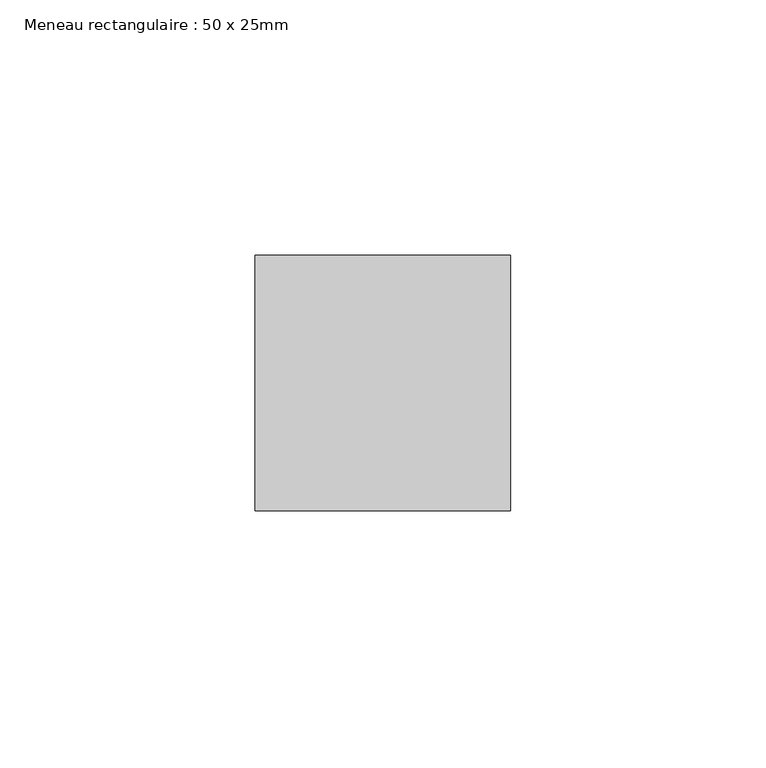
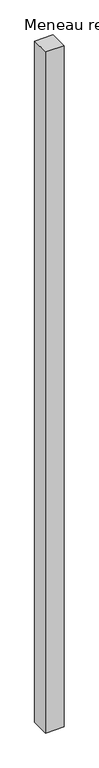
"""IFC4 building model written with IfcOpenShell, lengths in millimetres: member geometry, Meneau rectangulaire : 50 x 25mm."""

from ifc_helpers import new_model, si_unit, frame, origin, place, context, project, spatial, polyline, outline, extrude, source, transform, mapped, element, save


def meneau_rectangulaire_50_x_25mm_ed6bdce2(model_context):
    return source(origin(), model_context, "Body", "SweptSolid", [
        extrude(outline(polyline([(25.0, 0.0), (25.0, -50.0), (-25.0, -50.0), (-25.0, 0.0), (25.0, 0.0)])), frame((0.0, 0.0, -1941.0), z_axis=(0.0, 0.0, 1.0), x_axis=(1.0, 0.0, 0.0)), (0.0, 0.0, 1.0), 1941.0),
    ])


if __name__ == "__main__":
    model = new_model("IFC4")
    model_context = context("Model", 3, world=origin())
    ifc_project = project(units=[si_unit("LENGTHUNIT", "METRE", prefix="MILLI")], contexts=[model_context])
    site = spatial("IfcSite", under=ifc_project)
    building = spatial("IfcBuilding", under=site)
    placement = place(None, origin())
    meneau_rectangulaire_50_x_25mm_shape = meneau_rectangulaire_50_x_25mm_ed6bdce2(model_context)
    element("IfcMember", 1, ObjectType="Meneau rectangulaire : 50 x 25mm", at=placement, inside=building, context=model_context, shape_type="MappedRepresentation", body=[
        mapped(meneau_rectangulaire_50_x_25mm_shape, transform((0.0, 0.0, 0.0), x_axis=(1.0, 0.0, 0.0), y_axis=(0.0, 1.0, 0.0), z_axis=(0.0, 0.0, 1.0))),
    ])
    save(model, "model.ifc")
